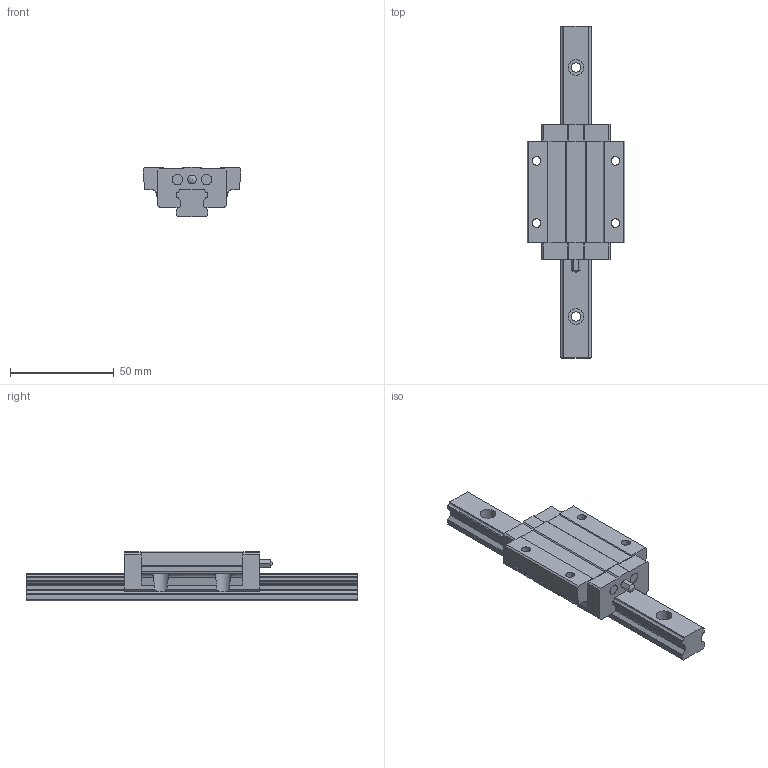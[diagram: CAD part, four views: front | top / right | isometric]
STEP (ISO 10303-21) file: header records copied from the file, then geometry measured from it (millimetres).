
FILE_DESCRIPTION( ( 'Unknown' ), '1' );
FILE_NAME( 'D:/inetpub/WonSTNew/WebParts/Download/H15SFLUU1-160L20_20.step', 'Unknown', ( 'Unknown' ), ( 'Unknown' ), 'PSStep 15.0.49', 'Unknown', ' ' );
FILE_SCHEMA( ( 'AUTOMOTIVE_DESIGN { 1 0 10303 214 1 1 1 1 }' ) );
Length unit declared in the file: millimetre
Products named in the file (4): Assem1; H 15_RAIL; H 15SFL_BLOCK; A-M4
Assembly tree (3 placements, depth 2):
  Assem1
    H 15_RAIL
    H 15SFL_BLOCK
    A-M4
Bounding box: 47 x 160 x 24 mm (x, y, z)
Volume: 67595.6 mm3; surface area: 21432.4 mm2
Topology: 3 solids, 3 shells, 164 faces, 450 edges, 301 vertices
Faces by surface type: plane 99, cylinder 63, cone 1, sphere 1
Full cylindrical faces by diameter (mm): 3.242 x2, 4 x1, 4.134 x4, 4.5 x3, 5 x4, 7.5 x3
Entity records: 6576 total; most frequent: CARTESIAN_POINT 977, DIRECTION 894, ORIENTED_EDGE 850, EDGE_CURVE 425, AXIS2_PLACEMENT_3D 309, VERTEX_POINT 296, LINE 276, VECTOR 276
